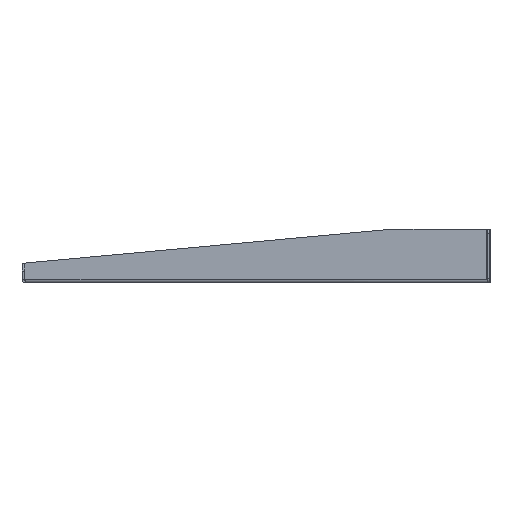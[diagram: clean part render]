
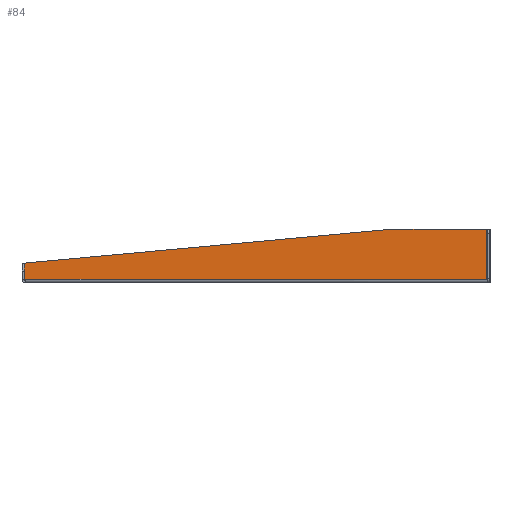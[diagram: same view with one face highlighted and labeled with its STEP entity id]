
A CAD part, left-side view. The second image highlights one B-rep face of the part: STEP entity #84.
In plain terms, the highlighted planar face has unit normal (-1, 0, 0).
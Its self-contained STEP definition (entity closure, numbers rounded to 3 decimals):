
#84 = ADVANCED_FACE( '', ( #695 ), #696, .T. );
#695 = FACE_OUTER_BOUND( '', #2118, .T. );
#696 = PLANE( '', #2119 );
#2118 = EDGE_LOOP( '', ( #3863, #3864, #3865, #3866, #3867, #3868, #3869, #3870 ) );
#2119 = AXIS2_PLACEMENT_3D( '', #3871, #3872, #3873 );
#3863 = ORIENTED_EDGE( '', *, *, #8683, .T. );
#3864 = ORIENTED_EDGE( '', *, *, #8684, .T. );
#3865 = ORIENTED_EDGE( '', *, *, #8675, .F. );
#3866 = ORIENTED_EDGE( '', *, *, #8636, .F. );
#3867 = ORIENTED_EDGE( '', *, *, #8667, .T. );
#3868 = ORIENTED_EDGE( '', *, *, #8670, .F. );
#3869 = ORIENTED_EDGE( '', *, *, #8673, .T. );
#3870 = ORIENTED_EDGE( '', *, *, #8682, .T. );
#3871 = CARTESIAN_POINT( '', ( -222.25, 189.586, 1.587 ) );
#3872 = DIRECTION( '', ( -1., 0., 0. ) );
#3873 = DIRECTION( '', ( 0., 0., 1. ) );
#8636 = EDGE_CURVE( '', #10385, #10383, #10387, .T. );
#8667 = EDGE_CURVE( '', #10385, #10435, #10437, .T. );
#8670 = EDGE_CURVE( '', #10440, #10435, #10442, .T. );
#8673 = EDGE_CURVE( '', #10440, #10445, #10447, .F. );
#8675 = EDGE_CURVE( '', #10383, #10449, #10450, .T. );
#8682 = EDGE_CURVE( '', #10445, #10459, #10461, .T. );
#8683 = EDGE_CURVE( '', #10459, #10462, #10463, .T. );
#8684 = EDGE_CURVE( '', #10462, #10449, #10464, .T. );
#10383 = VERTEX_POINT( '', #13254 );
#10385 = VERTEX_POINT( '', #13256 );
#10387 = LINE( '', #13258, #13259 );
#10435 = VERTEX_POINT( '', #13328 );
#10437 = LINE( '', #13331, #13332 );
#10440 = VERTEX_POINT( '', #13336 );
#10442 = LINE( '', #13339, #13340 );
#10445 = VERTEX_POINT( '', #13344 );
#10447 = LINE( '', #13347, #13348 );
#10449 = VERTEX_POINT( '', #13351 );
#10450 = LINE( '', #13352, #13353 );
#10459 = VERTEX_POINT( '', #13366 );
#10461 = LINE( '', #13369, #13370 );
#10462 = VERTEX_POINT( '', #13371 );
#10463 = CIRCLE( '', #13372, 1.397 );
#10464 = LINE( '', #13373, #13374 );
#13254 = CARTESIAN_POINT( '', ( -222.25, -188.671, 2.745 ) );
#13256 = CARTESIAN_POINT( '', ( -222.25, -188.671, 43.637 ) );
#13258 = CARTESIAN_POINT( '', ( -222.25, -188.671, 2.745 ) );
#13259 = VECTOR( '', #17145, 1000. );
#13328 = CARTESIAN_POINT( '', ( -222.25, -111.481, 43.637 ) );
#13331 = CARTESIAN_POINT( '', ( -222.25, -189.586, 43.637 ) );
#13332 = VECTOR( '', #17192, 1000. );
#13336 = CARTESIAN_POINT( '', ( -222.25, 186.088, 16.198 ) );
#13339 = CARTESIAN_POINT( '', ( -222.25, 190.892, 15.755 ) );
#13340 = VECTOR( '', #17195, 1000. );
#13344 = CARTESIAN_POINT( '', ( -222.25, 187.755, 14.531 ) );
#13347 = CARTESIAN_POINT( '', ( -222.25, 195.142, 7.144 ) );
#13348 = VECTOR( '', #17198, 1000. );
#13351 = CARTESIAN_POINT( '', ( -222.25, -188.671, 2.743 ) );
#13352 = CARTESIAN_POINT( '', ( -222.25, -188.671, 2.745 ) );
#13353 = VECTOR( '', #17200, 1000. );
#13366 = CARTESIAN_POINT( '', ( -222.25, 187.755, 2.963 ) );
#13369 = CARTESIAN_POINT( '', ( -222.25, 187.755, 43.637 ) );
#13370 = VECTOR( '', #17209, 1000. );
#13371 = CARTESIAN_POINT( '', ( -222.25, 187.214, 2.743 ) );
#13372 = AXIS2_PLACEMENT_3D( '', #17210, #17211, #17212 );
#13373 = CARTESIAN_POINT( '', ( -222.25, 189.586, 2.743 ) );
#13374 = VECTOR( '', #17213, 1000. );
#17145 = DIRECTION( '', ( 0., 0., -1. ) );
#17192 = DIRECTION( '', ( 0., 1., 0. ) );
#17195 = DIRECTION( '', ( 0., -0.996, 0.092 ) );
#17198 = DIRECTION( '', ( 0., -0.707, 0.707 ) );
#17200 = DIRECTION( '', ( 0., 0., -1. ) );
#17209 = DIRECTION( '', ( 0., 0., -1. ) );
#17210 = CARTESIAN_POINT( '', ( -222.25, 187.998, 1.587 ) );
#17211 = DIRECTION( '', ( 1., 0., 0. ) );
#17212 = DIRECTION( '', ( 0., 1., 0. ) );
#17213 = DIRECTION( '', ( 0., -1., 0. ) );
